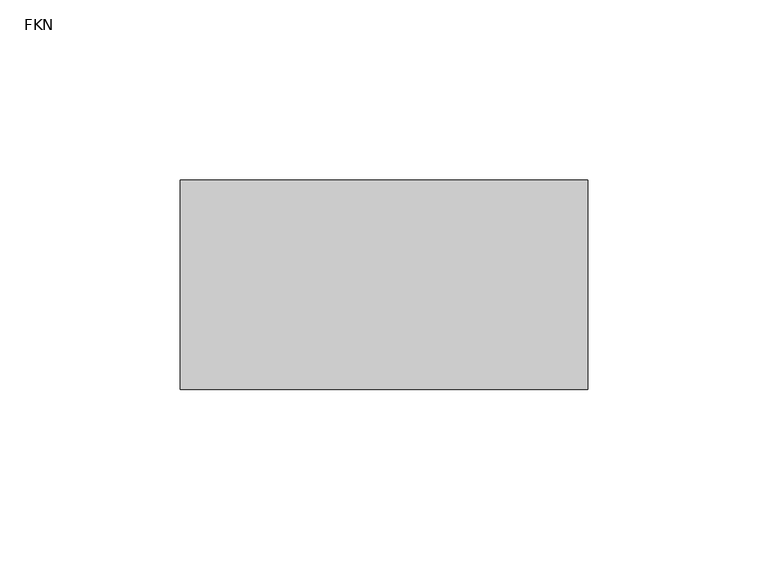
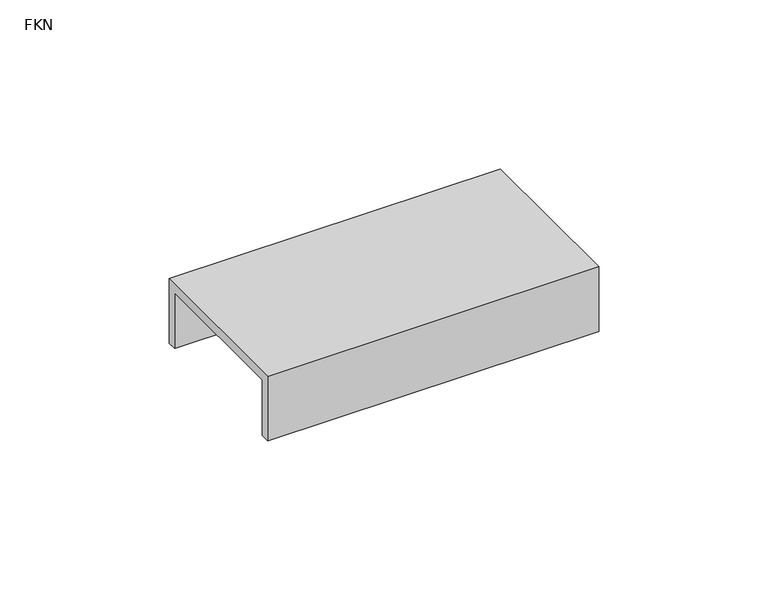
"""IFC4 building model written with IfcOpenShell, lengths in millimetres: proxy geometry, Frame-Teknion-Altos-Ceiling_Channel : FKN."""

import ifcopenshell
import ifcopenshell.guid

model = None  # the IFC model being written
_history = None  # IfcOwnerHistory: only IFC2X3 demands one
_inside = {}  # id of a spatial element -> (the spatial element, [elements in it])
_under = {}  # id of a project, library or spatial element -> (it, [spatial elements below it])
_declared = {}  # id of a project -> (the project, [libraries it declares])
_typed = {}  # id of a type object -> (the type object, [elements of that type])
_made_of = {}  # id of a material, layer set ... -> (it, [elements and type objects made of it])


def new_model(schema):
    """Start an empty IFC model of exactly this schema.

    Asked for "IFC4X3", IfcOpenShell would pick the latest addendum, in which some entities
    have other attributes; the version numbers below select the first issue.
    IFC2X3 requires an IfcOwnerHistory on every rooted entity: one is made here for all.
    """
    global model, _history
    if schema == "IFC4X3":
        model = ifcopenshell.file(schema_version=(4, 3, 0, 0))
    else:
        model = ifcopenshell.file(schema=schema)
    _inside.clear()
    _under.clear()
    _declared.clear()
    _typed.clear()
    _made_of.clear()
    _history = None
    if model.schema == "IFC2X3":
        org = make("IfcOrganization", Name="unknown")
        user = make(
            "IfcPersonAndOrganization",
            ThePerson=make("IfcPerson", FamilyName="unknown"),
            TheOrganization=org,
        )
        app = make(
            "IfcApplication",
            ApplicationDeveloper=org,
            Version="unknown",
            ApplicationFullName="unknown",
            ApplicationIdentifier="unknown",
        )
        _history = make(
            "IfcOwnerHistory",
            OwningUser=user,
            OwningApplication=app,
            ChangeAction="ADDED",
            CreationDate=0,
        )
    return model


def make(cls, **values):
    """One entity of the class cls with the attributes given. An attribute that is None is left unset."""
    return model.create_entity(
        cls, **{name: value for name, value in values.items() if value is not None}
    )


def rooted(cls, **values):
    """An entity with a GlobalId (a new one), such as an element, a storey or a relation."""
    return make(cls, GlobalId=ifcopenshell.guid.new(), OwnerHistory=_history, **values)


def si_unit(unit_type, name, prefix=None):
    """IfcSIUnit, for example si_unit("LENGTHUNIT", "METRE", prefix="MILLI")."""
    return make("IfcSIUnit", UnitType=unit_type, Prefix=prefix, Name=name)


def assignment(units):
    """IfcUnitAssignment: the units of a project."""
    return None if units is None else make("IfcUnitAssignment", Units=units)


def point(xyz):
    """IfcCartesianPoint."""
    return None if xyz is None else make("IfcCartesianPoint", Coordinates=xyz)


def direction(xyz):
    """IfcDirection."""
    return None if xyz is None else make("IfcDirection", DirectionRatios=xyz)


def frame(location, z_axis=None, x_axis=None):
    """IfcAxis2Placement3D, a coordinate frame: its origin and axes. An axis left out is left unset."""
    return make(
        "IfcAxis2Placement3D",
        Location=point(location),
        Axis=direction(z_axis),
        RefDirection=direction(x_axis),
    )


def origin():
    """The frame at (0, 0, 0) with its axes left unset."""
    return frame((0.0, 0.0, 0.0))


def place(relative_to, where):
    """IfcLocalPlacement: puts the frame where relative to a parent placement (None: the world)."""
    return make(
        "IfcLocalPlacement", PlacementRelTo=relative_to, RelativePlacement=where
    )


def context(
    kind, dimensions, precision=None, world=None, true_north=None, identifier=None
):
    """IfcGeometricRepresentationContext, for example the 3D "Model" context."""
    return make(
        "IfcGeometricRepresentationContext",
        ContextIdentifier=identifier,
        ContextType=kind,
        CoordinateSpaceDimension=dimensions,
        Precision=precision,
        WorldCoordinateSystem=world,
        TrueNorth=true_north,
    )


def project(units=None, contexts=None):
    """IfcProject with its units and contexts."""
    return rooted(
        "IfcProject",
        Name="project",
        RepresentationContexts=contexts,
        UnitsInContext=assignment(units),
    )


def spatial(cls, under=None, at=None, **own):
    """A site, building, storey or space (cls), placed at a placement, below another one or the project."""
    s = rooted(cls, ObjectPlacement=at, **own)
    if under is not None:
        _under.setdefault(under.id(), (under, []))[1].append(s)
    return s


def polyline(points):
    """IfcPolyline through the points."""
    return make("IfcPolyline", Points=[point(p) for p in points])


def outline(outer, holes=None, kind="AREA"):
    """IfcArbitraryClosedProfileDef: a profile drawn as a closed curve; with holes, ...WithVoids."""
    if holes is None:
        return make("IfcArbitraryClosedProfileDef", ProfileType=kind, OuterCurve=outer)
    return make(
        "IfcArbitraryProfileDefWithVoids",
        ProfileType=kind,
        OuterCurve=outer,
        InnerCurves=holes,
    )


def extrude(swept, where, along, depth):
    """IfcExtrudedAreaSolid: the profile swept, set in the frame where, extruded along a direction by depth."""
    return make(
        "IfcExtrudedAreaSolid",
        SweptArea=swept,
        Position=where,
        ExtrudedDirection=direction(along),
        Depth=depth,
    )


def shape(context_of_items, identifier, shape_type, items):
    """IfcShapeRepresentation: the items that make up one representation, for example the "Body"."""
    return make(
        "IfcShapeRepresentation",
        ContextOfItems=context_of_items,
        RepresentationIdentifier=identifier,
        RepresentationType=shape_type,
        Items=items,
    )


def source(mapping_origin, context_of_items, identifier, shape_type, items):
    """IfcRepresentationMap: a shape defined once, which mapped items show again and again."""
    return make(
        "IfcRepresentationMap",
        MappingOrigin=mapping_origin,
        MappedRepresentation=shape(context_of_items, identifier, shape_type, items),
    )


def transform(
    local_origin,
    x_axis=None,
    y_axis=None,
    z_axis=None,
    scale=None,
    scale2=None,
    scale3=None,
    uniform=True,
):
    """IfcCartesianTransformationOperator3D, or its non-uniform kind. x_axis, y_axis, z_axis: its Axis1, 2, 3."""
    if uniform:
        return make(
            "IfcCartesianTransformationOperator3D",
            Axis1=direction(x_axis),
            Axis2=direction(y_axis),
            LocalOrigin=point(local_origin),
            Scale=scale,
            Axis3=direction(z_axis),
        )
    return make(
        "IfcCartesianTransformationOperator3DnonUniform",
        Axis1=direction(x_axis),
        Axis2=direction(y_axis),
        LocalOrigin=point(local_origin),
        Scale=scale,
        Axis3=direction(z_axis),
        Scale2=scale2,
        Scale3=scale3,
    )


def mapped(mapping_source, mapping_target):
    """IfcMappedItem: shows the shape of a source again, moved by a transform."""
    return make(
        "IfcMappedItem", MappingSource=mapping_source, MappingTarget=mapping_target
    )


def made_of(thing, what):
    """Note that an element or type object is made of a material, layer set ...; save() writes the relation."""
    if what is not None:
        _made_of.setdefault(what.id(), (what, []))[1].append(thing)
    return thing


def element(
    cls,
    number,
    at=None,
    inside=None,
    cuts=None,
    type_object=None,
    material=None,
    context=None,
    identifier="Body",
    shape_type=None,
    held_by="IfcProductDefinitionShape",
    body=None,
    shapes=None,
    **own,
):
    """One element of the class cls, such as IfcWall. Its Tag is "e" and its number.

    at: its placement. inside: the storey or other place that contains it. cuts: it is an
    opening in that element (IfcRelVoidsElement). A single representation is given by context,
    identifier, shape_type and body (its items); several are given by shapes. held_by: the class
    of the entity that holds the representations. save() writes the other relations.
    """
    e = rooted(cls, Tag="e%d" % number, ObjectPlacement=at, **own)
    if body is not None:
        shapes = [shape(context, identifier, shape_type, body)]
    if shapes is not None:
        e.Representation = make(held_by, Representations=shapes)
    if inside is not None:
        _inside.setdefault(inside.id(), (inside, []))[1].append(e)
    if cuts is not None:
        rooted(
            "IfcRelVoidsElement", RelatingBuildingElement=cuts, RelatedOpeningElement=e
        )
    if type_object is not None:
        _typed.setdefault(type_object.id(), (type_object, []))[1].append(e)
    return made_of(e, material)


def aggregate(whole, parts):
    """IfcRelAggregates: a whole, such as a stair, and the parts it consists of."""
    return rooted("IfcRelAggregates", RelatingObject=whole, RelatedObjects=parts)


def save(model, path):
    """Write the relations noted so far, then the file.

    IfcRelAggregates (storeys below a building ...), IfcRelContainedInSpatialStructure (elements
    in a storey), IfcRelDefinesByType, IfcRelAssociatesMaterial and IfcRelDeclares: one each for
    every whole, place, type object, material and project.
    """
    for whole, parts in _under.values():
        aggregate(whole, parts)
    for where, things in _inside.values():
        rooted(
            "IfcRelContainedInSpatialStructure",
            RelatedElements=things,
            RelatingStructure=where,
        )
    for kind, things in _typed.values():
        rooted("IfcRelDefinesByType", RelatedObjects=things, RelatingType=kind)
    for what, things in _made_of.values():
        rooted("IfcRelAssociatesMaterial", RelatedObjects=things, RelatingMaterial=what)
    for by, libraries in _declared.values():
        rooted("IfcRelDeclares", RelatingContext=by, RelatedDefinitions=libraries)
    model.write(path)


def fkn_5ed5fb2b(model_context):
    return source(origin(), model_context, "Body", "SweptSolid", [
        extrude(outline(polyline([(-29.083, -23.3164063), (-29.083, 0.0), (29.083, 0.0), (29.083, -23.3164063), (25.908, -23.3164063), (25.908, -3.175), (-25.908, -3.175), (-25.908, -23.3164063), (-29.083, -23.3164063)])), frame((-56.5050781, 0.0, 0.0), z_axis=(1.0, 0.0, 0.0), x_axis=(0.0, 1.0, 0.0)), (0.0, 0.0, 1.0), 113.0101563),
    ])


if __name__ == "__main__":
    model = new_model("IFC4")
    model_context = context("Model", 3, world=origin())
    ifc_project = project(units=[si_unit("LENGTHUNIT", "METRE", prefix="MILLI")], contexts=[model_context])
    site = spatial("IfcSite", under=ifc_project)
    building = spatial("IfcBuilding", under=site)
    placement = place(None, origin())
    fkn_shape = fkn_5ed5fb2b(model_context)
    element("IfcBuildingElementProxy", 1, Name="Frame-Teknion-Altos-Ceiling_Channel : FKN", ObjectType="Frame-Teknion-Altos-Ceiling_Channel : FKN", at=placement, inside=building, context=model_context, shape_type="MappedRepresentation", body=[
        mapped(fkn_shape, transform((0.0, 0.0, 0.0), x_axis=(1.0, 0.0, 0.0), y_axis=(0.0, 1.0, 0.0), z_axis=(0.0, 0.0, 1.0))),
    ])
    save(model, "model.ifc")
